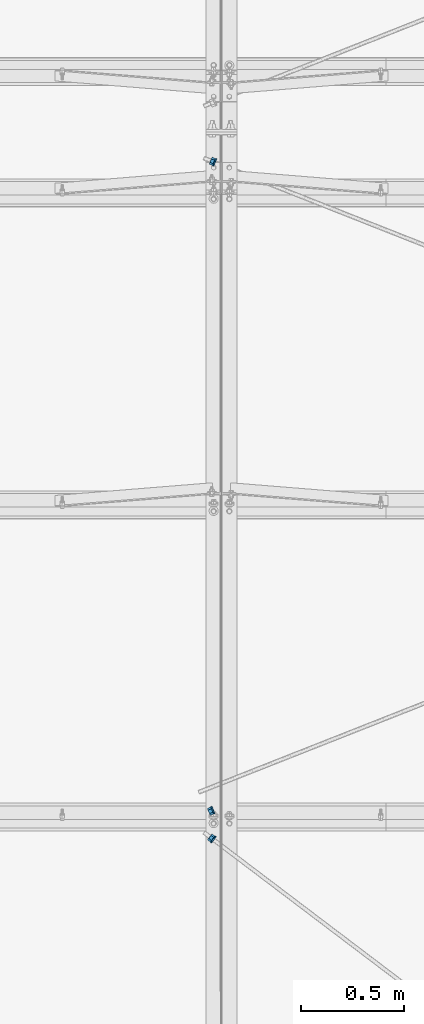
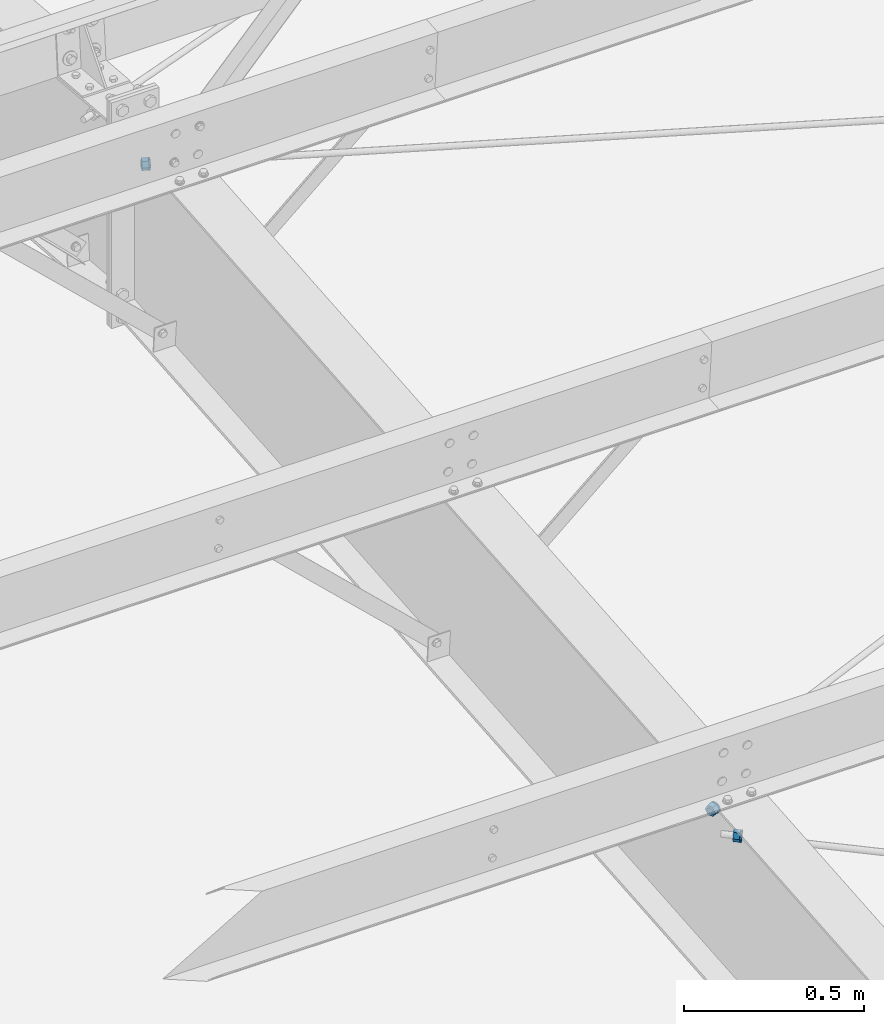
# One storey, part 33 of 185: 6 beams, 6 elements without a shape of their own.
"""IFC2X3 building model written with IfcOpenShell, lengths in millimetres."""

from ifc_helpers import new_model, si_unit, frame, origin_with_axes, place, context, subcontext, project, spatial, polyline, outline, extrude, material, type_object, element, aggregate, save


model = new_model("IFC2X3")

# Units and contexts
model_context = context("Model", 3, precision=1e-05, world=origin_with_axes())
body_context = subcontext(model_context, "Body", "Model", "MODEL_VIEW")
ifc_project = project(units=[si_unit("LENGTHUNIT", "METRE", prefix="MILLI"), si_unit("AREAUNIT", "SQUARE_METRE"), si_unit("VOLUMEUNIT", "CUBIC_METRE"), si_unit("MASSUNIT", "GRAM", prefix="KILO"), si_unit("TIMEUNIT", "SECOND"), si_unit("PLANEANGLEUNIT", "RADIAN"), si_unit("SOLIDANGLEUNIT", "STERADIAN"), si_unit("THERMODYNAMICTEMPERATUREUNIT", "DEGREE_CELSIUS"), si_unit("LUMINOUSINTENSITYUNIT", "LUMEN")], contexts=[model_context])

# Site, building, storey
site_placement = place(None, origin_with_axes())
site = spatial("IfcSite", under=ifc_project, at=site_placement, Name="Undefined", CompositionType="ELEMENT")
building_placement = place(site_placement, origin_with_axes())
building = spatial("IfcBuilding", under=site, at=building_placement, Name="Undefined", CompositionType="ELEMENT")
storey_placement = place(building_placement, origin_with_axes())
storey = spatial("IfcBuildingStorey", under=building, at=storey_placement, Name="Undefined", CompositionType="ELEMENT", Elevation=0.0)

# Assembly, beam
assembly_1_placement = place(storey_placement, origin_with_axes())
assembly_1 = element("IfcElementAssembly", 1, at=assembly_1_placement, inside=storey, Name="Steel Assembly", AssemblyPlace="NOTDEFINED", PredefinedType="RIGID_FRAME")
ifc_material = material(Name="STEEL/55")
beam_type_1 = type_object("IfcBeamType", Name="3/4_HEAVY_HEX_NUT", PredefinedType="NOTDEFINED")
beam_1_placement = place(assembly_1_placement, frame((30054.9507213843, 12702.421744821, 6891.6769740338), z_axis=(-0.0290102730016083, -0.012466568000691, 0.999501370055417), x_axis=(-0.924919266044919, -0.378850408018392, -0.0315708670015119)))
beam_1 = element("IfcBeam", 2, at=beam_1_placement, type_object=beam_type_1, material=ifc_material, Name="3/4 H HEX NUT A563", ObjectType="3/4_HEAVY_HEX_NUT", context=body_context, shape_type="SweptSolid", body=[
    extrude(outline(polyline([(9.13000011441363, -15.810000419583), (-9.13000011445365, -15.810000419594), (-18.2600002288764, 1.54614099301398e-11), (-9.13000011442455, 15.8100004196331), (9.13000011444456, 15.8100004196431), (18.2600002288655, 3.36513039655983e-11), (9.13000011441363, -15.810000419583)]), holes=[polyline([(-8.06850066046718, 6.43441456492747), (-10.061255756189, 2.29641597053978), (-10.0612557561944, -2.29641597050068), (-8.06850066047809, -6.43441456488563), (-4.47768005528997, -9.29799844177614), (-1.09139364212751e-11, -10.3199996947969), (4.47768005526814, -9.29799844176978), (8.0685006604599, -6.43441456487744), (10.0612557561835, -2.29641597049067), (10.0612557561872, 2.2964159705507), (8.06850066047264, 6.43441456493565), (4.47768005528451, 9.29799844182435), (7.27595761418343e-12, 10.319999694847), (-4.47768005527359, 9.2979984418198), (-8.06850066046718, 6.43441456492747)])]), frame((19.0500000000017, 0.0, 2.58175642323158e-19), z_axis=(-1.0, 0.0, 0.0), x_axis=(0.0, -1.0, 0.0)), (0.0, 0.0, 1.0), 19.1),
])
aggregate(assembly_1, [beam_1])

assembly_2_placement = place(storey_placement, origin_with_axes())
assembly_2 = element("IfcElementAssembly", 3, at=assembly_2_placement, inside=storey, Name="Steel Assembly", AssemblyPlace="NOTDEFINED", PredefinedType="RIGID_FRAME")
beam_2_placement = place(assembly_2_placement, frame((30063.7605761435, 15856.0793380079, 7154.4817706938), z_axis=(-0.0288460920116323, 0.0128673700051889, -0.999501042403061), x_axis=(-0.924919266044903, 0.378850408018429, 0.0315708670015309)))
beam_2 = element("IfcBeam", 4, at=beam_2_placement, type_object=beam_type_1, material=ifc_material, Name="3/4 H HEX NUT A563", ObjectType="3/4_HEAVY_HEX_NUT", context=body_context, shape_type="SweptSolid", body=[
    extrude(outline(polyline([(9.13000011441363, -15.810000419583), (-9.13000011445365, -15.810000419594), (-18.2600002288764, 1.54614099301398e-11), (-9.13000011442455, 15.8100004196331), (9.13000011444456, 15.8100004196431), (18.2600002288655, 3.36513039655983e-11), (9.13000011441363, -15.810000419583)]), holes=[polyline([(-8.06850066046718, 6.43441456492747), (-10.061255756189, 2.29641597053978), (-10.0612557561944, -2.29641597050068), (-8.06850066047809, -6.43441456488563), (-4.47768005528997, -9.29799844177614), (-1.09139364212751e-11, -10.3199996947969), (4.47768005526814, -9.29799844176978), (8.0685006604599, -6.43441456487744), (10.0612557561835, -2.29641597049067), (10.0612557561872, 2.2964159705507), (8.06850066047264, 6.43441456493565), (4.47768005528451, 9.29799844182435), (7.27595761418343e-12, 10.319999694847), (-4.47768005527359, 9.2979984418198), (-8.06850066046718, 6.43441456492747)])]), frame((19.0500000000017, 0.0, 2.58175642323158e-19), z_axis=(-1.0, 0.0, 0.0), x_axis=(0.0, -1.0, 0.0)), (0.0, 0.0, 1.0), 19.1),
])
aggregate(assembly_2, [beam_2])

assembly_3_placement = place(storey_placement, origin_with_axes())
assembly_3 = element("IfcElementAssembly", 5, at=assembly_3_placement, inside=storey, Name="Steel Assembly", AssemblyPlace="NOTDEFINED", PredefinedType="RIGID_FRAME")
beam_3_placement = place(assembly_3_placement, frame((30057.2910550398, 12562.2463359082, 6879.99568674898), z_axis=(-0.0397310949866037, 0.0307690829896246, -0.998736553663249), x_axis=(-0.796162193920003, 0.602993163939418, 0.0502494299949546)))
beam_3 = element("IfcBeam", 6, at=beam_3_placement, type_object=beam_type_1, material=ifc_material, Name="3/4 H HEX NUT A563", ObjectType="3/4_HEAVY_HEX_NUT", context=body_context, shape_type="SweptSolid", body=[
    extrude(outline(polyline([(9.13000011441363, -15.810000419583), (-9.13000011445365, -15.810000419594), (-18.2600002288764, 1.54614099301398e-11), (-9.13000011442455, 15.8100004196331), (9.13000011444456, 15.8100004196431), (18.2600002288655, 3.36513039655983e-11), (9.13000011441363, -15.810000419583)]), holes=[polyline([(-8.06850066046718, 6.43441456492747), (-10.061255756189, 2.29641597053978), (-10.0612557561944, -2.29641597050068), (-8.06850066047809, -6.43441456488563), (-4.47768005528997, -9.29799844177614), (-1.09139364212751e-11, -10.3199996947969), (4.47768005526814, -9.29799844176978), (8.0685006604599, -6.43441456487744), (10.0612557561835, -2.29641597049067), (10.0612557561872, 2.2964159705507), (8.06850066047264, 6.43441456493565), (4.47768005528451, 9.29799844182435), (7.27595761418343e-12, 10.319999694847), (-4.47768005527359, 9.2979984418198), (-8.06850066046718, 6.43441456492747)])]), frame((19.0500000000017, 0.0, 2.58175642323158e-19), z_axis=(-1.0, 0.0, 0.0), x_axis=(0.0, -1.0, 0.0)), (0.0, 0.0, 1.0), 19.1),
])
aggregate(assembly_3, [beam_3])

assembly_4_placement = place(storey_placement, origin_with_axes())
assembly_4 = element("IfcElementAssembly", 7, at=assembly_4_placement, inside=storey, Name="Steel Assembly", AssemblyPlace="NOTDEFINED", PredefinedType="RIGID_FRAME")
beam_type_2 = type_object("IfcBeamType", Name="3/4_WASHER", PredefinedType="NOTDEFINED")
beam_4_placement = place(assembly_4_placement, frame((30059.3556493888, 12704.2260198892, 6891.82733028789), z_axis=(-0.0290102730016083, -0.012466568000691, 0.999501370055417), x_axis=(-0.924919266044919, -0.378850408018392, -0.0315708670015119)))
beam_4 = element("IfcBeam", 8, at=beam_4_placement, type_object=beam_type_2, material=ifc_material, Name="3/4 WASHER F844", ObjectType="3/4_WASHER", context=body_context, shape_type="SweptSolid", body=[
    extrude(outline(polyline([(-11.6280845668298, -14.5811568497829), (-16.8030690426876, -8.09193156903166), (-18.649999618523, -4.54747350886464e-12), (-16.8030690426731, 8.09193156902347), (-11.6280845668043, 14.5811568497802), (-4.15001533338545, 18.1824051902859), (4.15001533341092, 18.1824051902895), (11.628084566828, 14.5811568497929), (16.8030690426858, 8.09193156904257), (18.6499996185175, 1.45519152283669e-11), (16.8030690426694, -8.09193156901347), (11.6280845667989, -14.5811568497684), (4.15001533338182, -18.182405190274), (-4.15001533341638, -18.1824051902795), (-11.6280845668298, -14.5811568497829)]), holes=[polyline([(-8.06850066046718, 6.43441456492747), (-10.061255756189, 2.29641597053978), (-10.0612557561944, -2.29641597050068), (-8.06850066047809, -6.43441456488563), (-4.47768005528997, -9.29799844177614), (-1.09139364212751e-11, -10.3199996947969), (4.47768005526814, -9.29799844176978), (8.0685006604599, -6.43441456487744), (10.0612557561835, -2.29641597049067), (10.0612557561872, 2.2964159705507), (8.06850066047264, 6.43441456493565), (4.47768005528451, 9.29799844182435), (7.27595761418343e-12, 10.319999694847), (-4.47768005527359, 9.2979984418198), (-8.06850066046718, 6.43441456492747)])]), frame((4.76250000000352, 2.6437185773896e-16, 5.6843418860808e-14), z_axis=(-1.0, 0.0, 0.0), x_axis=(0.0, -1.0, 0.0)), (0.0, 0.0, 1.0), 4.8),
])
aggregate(assembly_4, [beam_4])

assembly_5_placement = place(storey_placement, origin_with_axes())
assembly_5 = element("IfcElementAssembly", 9, at=assembly_5_placement, inside=storey, Name="Steel Assembly", AssemblyPlace="NOTDEFINED", PredefinedType="RIGID_FRAME")
beam_5_placement = place(assembly_5_placement, frame((30068.1655041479, 15854.2750629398, 7154.3314144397), z_axis=(-0.0288460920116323, 0.0128673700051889, -0.999501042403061), x_axis=(-0.924919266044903, 0.378850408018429, 0.0315708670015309)))
beam_5 = element("IfcBeam", 10, at=beam_5_placement, type_object=beam_type_2, material=ifc_material, Name="3/4 WASHER F844", ObjectType="3/4_WASHER", context=body_context, shape_type="SweptSolid", body=[
    extrude(outline(polyline([(-11.6280845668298, -14.5811568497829), (-16.8030690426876, -8.09193156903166), (-18.649999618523, -4.54747350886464e-12), (-16.8030690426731, 8.09193156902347), (-11.6280845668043, 14.5811568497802), (-4.15001533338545, 18.1824051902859), (4.15001533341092, 18.1824051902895), (11.628084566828, 14.5811568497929), (16.8030690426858, 8.09193156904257), (18.6499996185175, 1.45519152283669e-11), (16.8030690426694, -8.09193156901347), (11.6280845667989, -14.5811568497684), (4.15001533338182, -18.182405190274), (-4.15001533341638, -18.1824051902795), (-11.6280845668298, -14.5811568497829)]), holes=[polyline([(-8.06850066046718, 6.43441456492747), (-10.061255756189, 2.29641597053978), (-10.0612557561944, -2.29641597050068), (-8.06850066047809, -6.43441456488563), (-4.47768005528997, -9.29799844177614), (-1.09139364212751e-11, -10.3199996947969), (4.47768005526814, -9.29799844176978), (8.0685006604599, -6.43441456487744), (10.0612557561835, -2.29641597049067), (10.0612557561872, 2.2964159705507), (8.06850066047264, 6.43441456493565), (4.47768005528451, 9.29799844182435), (7.27595761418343e-12, 10.319999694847), (-4.47768005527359, 9.2979984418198), (-8.06850066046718, 6.43441456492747)])]), frame((4.76250000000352, 2.6437185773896e-16, 5.6843418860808e-14), z_axis=(-1.0, 0.0, 0.0), x_axis=(0.0, -1.0, 0.0)), (0.0, 0.0, 1.0), 4.8),
])
aggregate(assembly_5, [beam_5])

assembly_6_placement = place(storey_placement, origin_with_axes())
assembly_6 = element("IfcElementAssembly", 11, at=assembly_6_placement, inside=storey, Name="Steel Assembly", AssemblyPlace="NOTDEFINED", PredefinedType="RIGID_FRAME")
beam_6_placement = place(assembly_6_placement, frame((30061.0827774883, 12559.374580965, 6879.75637383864), z_axis=(-0.0397310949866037, 0.0307690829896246, -0.998736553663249), x_axis=(-0.796162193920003, 0.602993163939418, 0.0502494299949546)))
beam_6 = element("IfcBeam", 12, at=beam_6_placement, type_object=beam_type_2, material=ifc_material, Name="3/4 WASHER F844", ObjectType="3/4_WASHER", context=body_context, shape_type="SweptSolid", body=[
    extrude(outline(polyline([(-11.6280845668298, -14.5811568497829), (-16.8030690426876, -8.09193156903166), (-18.649999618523, -4.54747350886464e-12), (-16.8030690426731, 8.09193156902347), (-11.6280845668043, 14.5811568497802), (-4.15001533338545, 18.1824051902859), (4.15001533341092, 18.1824051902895), (11.628084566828, 14.5811568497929), (16.8030690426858, 8.09193156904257), (18.6499996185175, 1.45519152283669e-11), (16.8030690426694, -8.09193156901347), (11.6280845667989, -14.5811568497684), (4.15001533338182, -18.182405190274), (-4.15001533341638, -18.1824051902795), (-11.6280845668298, -14.5811568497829)]), holes=[polyline([(-8.06850066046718, 6.43441456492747), (-10.061255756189, 2.29641597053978), (-10.0612557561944, -2.29641597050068), (-8.06850066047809, -6.43441456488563), (-4.47768005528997, -9.29799844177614), (-1.09139364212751e-11, -10.3199996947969), (4.47768005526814, -9.29799844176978), (8.0685006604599, -6.43441456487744), (10.0612557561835, -2.29641597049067), (10.0612557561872, 2.2964159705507), (8.06850066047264, 6.43441456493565), (4.47768005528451, 9.29799844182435), (7.27595761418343e-12, 10.319999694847), (-4.47768005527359, 9.2979984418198), (-8.06850066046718, 6.43441456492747)])]), frame((4.76250000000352, 2.6437185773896e-16, 5.6843418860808e-14), z_axis=(-1.0, 0.0, 0.0), x_axis=(0.0, -1.0, 0.0)), (0.0, 0.0, 1.0), 4.8),
])
aggregate(assembly_6, [beam_6])

save(model, "model.ifc")
